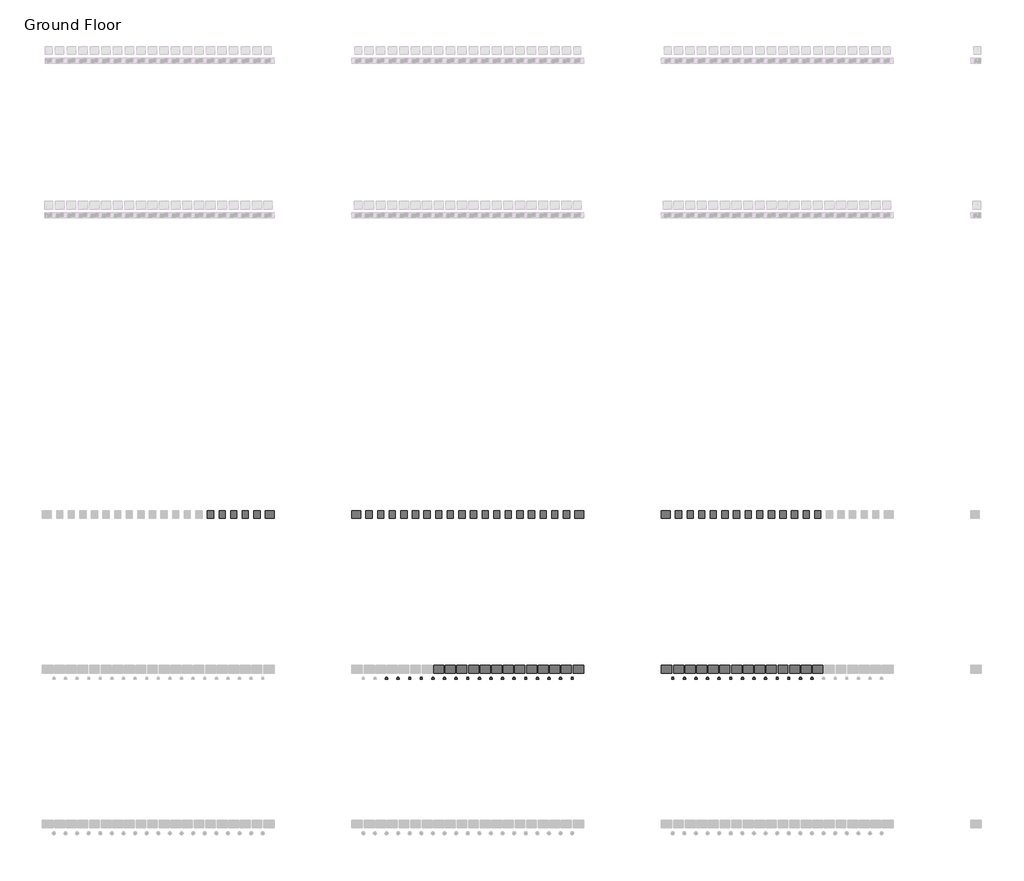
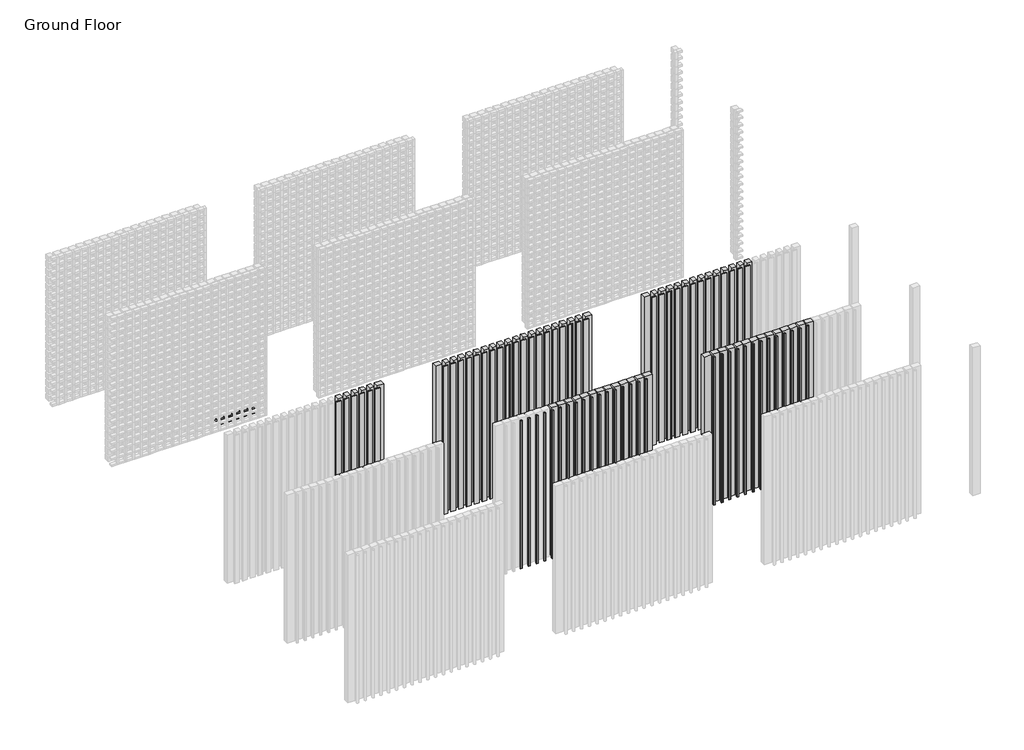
# One storey, part 61 of 350: 72 plates, 68 members.
"""IFC4 building model written with IfcOpenShell, lengths in millimetres."""

from ifc_helpers import new_model, si_unit, origin, place, context, project, spatial, transform, mapped, element, save
from components import rectangular_mullion_25c8ac94, rectangular_mullion_d7abbbe3, empty_system_panel_empty_de2abd15, empty_system_panel_empty_1239baa2, empty_system_panel_empty_e311c30d, empty_system_panel_empty_f62c9f60, empty_system_panel_empty_ba5a9e04, empty_system_panel_empty_0065accd, empty_system_panel_empty_fe50b430

model = new_model("IFC4")

# Units and contexts
model_context = context("Model", 3, world=origin())
ifc_project = project(units=[si_unit("LENGTHUNIT", "METRE", prefix="MILLI")], contexts=[model_context])

# Site, building, storey
site = spatial("IfcSite", under=ifc_project)
building = spatial("IfcBuilding", under=site)
storey = spatial("IfcBuildingStorey", under=building, Name="Ground Floor", Elevation=0.0)

# Members
placement = place(None, origin())
rectangular_mullion_shape = rectangular_mullion_25c8ac94(model_context)
element("IfcMember", 1, ObjectType="Rectangular Mullion : Batten_Aluminium_Modinex_Austratus_Linear_Fin_SpottedGum", at=placement, inside=storey, context=model_context, shape_type="MappedRepresentation", body=[
    mapped(rectangular_mullion_shape, transform((14066.4361642, 32968.2978302, 0.0), x_axis=(1.0, 0.0, 0.0), y_axis=(0.0, -1.0, 0.0), z_axis=(0.0, 0.0, -1.0))),
])
element("IfcMember", 2, ObjectType="Rectangular Mullion : Batten_Aluminium_Modinex_Austratus_Linear_Fin_SpottedGum", at=placement, inside=storey, context=model_context, shape_type="MappedRepresentation", body=[
    mapped(rectangular_mullion_shape, transform((14216.4361642, 32968.2978302, 0.0), x_axis=(1.0, 0.0, 0.0), y_axis=(0.0, -1.0, 0.0), z_axis=(0.0, 0.0, -1.0))),
])
element("IfcMember", 3, ObjectType="Rectangular Mullion : Batten_Aluminium_Modinex_Austratus_Linear_Fin_SpottedGum", at=placement, inside=storey, context=model_context, shape_type="MappedRepresentation", body=[
    mapped(rectangular_mullion_shape, transform((14366.4361642, 32968.2978302, 0.0), x_axis=(1.0, 0.0, 0.0), y_axis=(0.0, -1.0, 0.0), z_axis=(0.0, 0.0, -1.0))),
])
element("IfcMember", 4, ObjectType="Rectangular Mullion : Batten_Aluminium_Modinex_Austratus_Linear_Fin_SpottedGum", at=placement, inside=storey, context=model_context, shape_type="MappedRepresentation", body=[
    mapped(rectangular_mullion_shape, transform((14516.4361642, 32968.2978302, 0.0), x_axis=(1.0, 0.0, 0.0), y_axis=(0.0, -1.0, 0.0), z_axis=(0.0, 0.0, -1.0))),
])
element("IfcMember", 5, ObjectType="Rectangular Mullion : Batten_Aluminium_Modinex_Austratus_Linear_Fin_SpottedGum", at=placement, inside=storey, context=model_context, shape_type="MappedRepresentation", body=[
    mapped(rectangular_mullion_shape, transform((14666.4361642, 32968.2978302, 0.0), x_axis=(1.0, 0.0, 0.0), y_axis=(0.0, -1.0, 0.0), z_axis=(0.0, 0.0, -1.0))),
])
element("IfcMember", 6, ObjectType="Rectangular Mullion : Batten_Aluminium_Modinex_Austratus_Linear_Fin_SpottedGum", at=placement, inside=storey, context=model_context, shape_type="MappedRepresentation", body=[
    mapped(rectangular_mullion_shape, transform((14816.4361642, 32968.2978302, 0.0), x_axis=(1.0, 0.0, 0.0), y_axis=(0.0, -1.0, 0.0), z_axis=(0.0, 0.0, -1.0))),
])
element("IfcMember", 7, ObjectType="Rectangular Mullion : Batten_Aluminium_Modinex_Austratus_Linear_Fin_SpottedGum", at=placement, inside=storey, context=model_context, shape_type="MappedRepresentation", body=[
    mapped(rectangular_mullion_shape, transform((14966.4361642, 32968.2978302, 0.0), x_axis=(1.0, 0.0, 0.0), y_axis=(0.0, -1.0, 0.0), z_axis=(0.0, 0.0, -1.0))),
])
element("IfcMember", 8, ObjectType="Rectangular Mullion : Batten_Aluminium_Modinex_Austratus_Linear_Fin_SpottedGum", at=placement, inside=storey, context=model_context, shape_type="MappedRepresentation", body=[
    mapped(rectangular_mullion_shape, transform((15116.4361642, 32968.2978302, 0.0), x_axis=(1.0, 0.0, 0.0), y_axis=(0.0, -1.0, 0.0), z_axis=(0.0, 0.0, -1.0))),
])
element("IfcMember", 9, ObjectType="Rectangular Mullion : Batten_Aluminium_Modinex_Austratus_Linear_Fin_SpottedGum", at=placement, inside=storey, context=model_context, shape_type="MappedRepresentation", body=[
    mapped(rectangular_mullion_shape, transform((15266.4361642, 32968.2978302, 0.0), x_axis=(1.0, 0.0, 0.0), y_axis=(0.0, -1.0, 0.0), z_axis=(0.0, 0.0, -1.0))),
])
element("IfcMember", 10, ObjectType="Rectangular Mullion : Batten_Aluminium_Modinex_Austratus_Linear_Fin_SpottedGum", at=placement, inside=storey, context=model_context, shape_type="MappedRepresentation", body=[
    mapped(rectangular_mullion_shape, transform((15416.4361642, 32968.2978302, 0.0), x_axis=(1.0, 0.0, 0.0), y_axis=(0.0, -1.0, 0.0), z_axis=(0.0, 0.0, -1.0))),
])
element("IfcMember", 11, ObjectType="Rectangular Mullion : Batten_Aluminium_Modinex_Austratus_Linear_Fin_SpottedGum", at=placement, inside=storey, context=model_context, shape_type="MappedRepresentation", body=[
    mapped(rectangular_mullion_shape, transform((15566.4361642, 32968.2978302, 0.0), x_axis=(1.0, 0.0, 0.0), y_axis=(0.0, -1.0, 0.0), z_axis=(0.0, 0.0, -1.0))),
])
element("IfcMember", 12, ObjectType="Rectangular Mullion : Batten_Aluminium_Modinex_Austratus_Linear_Fin_SpottedGum", at=placement, inside=storey, context=model_context, shape_type="MappedRepresentation", body=[
    mapped(rectangular_mullion_shape, transform((15716.4361642, 32968.2978302, 0.0), x_axis=(1.0, 0.0, 0.0), y_axis=(0.0, -1.0, 0.0), z_axis=(0.0, 0.0, -1.0))),
])
element("IfcMember", 13, ObjectType="Rectangular Mullion : Batten_Aluminium_Modinex_Austratus_Linear_Fin_SpottedGum", at=placement, inside=storey, context=model_context, shape_type="MappedRepresentation", body=[
    mapped(rectangular_mullion_shape, transform((15866.4361642, 32968.2978302, 0.0), x_axis=(1.0, 0.0, 0.0), y_axis=(0.0, -1.0, 0.0), z_axis=(0.0, 0.0, -1.0))),
])
rectangular_mullion_2_shape = rectangular_mullion_d7abbbe3(model_context)
element("IfcMember", 14, ObjectType="Rectangular Mullion : Batten_Aluminium_Modinex_Austratus_Linear_Flat_Cedar", at=placement, inside=storey, context=model_context, shape_type="MappedRepresentation", body=[
    mapped(rectangular_mullion_2_shape, transform((8016.4361642, 34968.2978302, 0.0), x_axis=(1.0, 0.0, 0.0), y_axis=(0.0, -1.0, 0.0), z_axis=(0.0, 0.0, -1.0))),
])
element("IfcMember", 15, ObjectType="Rectangular Mullion : Batten_Aluminium_Modinex_Austratus_Linear_Flat_Cedar", at=placement, inside=storey, context=model_context, shape_type="MappedRepresentation", body=[
    mapped(rectangular_mullion_2_shape, transform((8166.4361642, 34968.2978302, 0.0), x_axis=(1.0, 0.0, 0.0), y_axis=(0.0, -1.0, 0.0), z_axis=(0.0, 0.0, -1.0))),
])
element("IfcMember", 16, ObjectType="Rectangular Mullion : Batten_Aluminium_Modinex_Austratus_Linear_Flat_Cedar", at=placement, inside=storey, context=model_context, shape_type="MappedRepresentation", body=[
    mapped(rectangular_mullion_2_shape, transform((8316.4361642, 34968.2978302, 0.0), x_axis=(1.0, 0.0, 0.0), y_axis=(0.0, -1.0, 0.0), z_axis=(0.0, 0.0, -1.0))),
])
element("IfcMember", 17, ObjectType="Rectangular Mullion : Batten_Aluminium_Modinex_Austratus_Linear_Flat_Cedar", at=placement, inside=storey, context=model_context, shape_type="MappedRepresentation", body=[
    mapped(rectangular_mullion_2_shape, transform((8466.4361642, 34968.2978302, 0.0), x_axis=(1.0, 0.0, 0.0), y_axis=(0.0, -1.0, 0.0), z_axis=(0.0, 0.0, -1.0))),
])
element("IfcMember", 18, ObjectType="Rectangular Mullion : Batten_Aluminium_Modinex_Austratus_Linear_Flat_Cedar", at=placement, inside=storey, context=model_context, shape_type="MappedRepresentation", body=[
    mapped(rectangular_mullion_2_shape, transform((8616.4361642, 34968.2978302, 0.0), x_axis=(1.0, 0.0, 0.0), y_axis=(0.0, -1.0, 0.0), z_axis=(0.0, 0.0, -1.0))),
])
element("IfcMember", 19, ObjectType="Rectangular Mullion : Batten_Aluminium_Modinex_Austratus_Linear_Flat_Cedar", at=placement, inside=storey, context=model_context, shape_type="MappedRepresentation", body=[
    mapped(rectangular_mullion_2_shape, transform((8766.4361642, 34968.2978302, 0.0), x_axis=(1.0, 0.0, 0.0), y_axis=(0.0, -1.0, 0.0), z_axis=(0.0, 0.0, -1.0))),
])
element("IfcMember", 20, ObjectType="Rectangular Mullion : Batten_Aluminium_Modinex_Austratus_Linear_Flat_EnglishOak", at=placement, inside=storey, context=model_context, shape_type="MappedRepresentation", body=[
    mapped(rectangular_mullion_2_shape, transform((10066.4361642, 34968.2978302, 0.0), x_axis=(1.0, 0.0, 0.0), y_axis=(0.0, -1.0, 0.0), z_axis=(0.0, 0.0, -1.0))),
])
element("IfcMember", 21, ObjectType="Rectangular Mullion : Batten_Aluminium_Modinex_Austratus_Linear_Flat_EnglishOak", at=placement, inside=storey, context=model_context, shape_type="MappedRepresentation", body=[
    mapped(rectangular_mullion_2_shape, transform((10216.4361642, 34968.2978302, 0.0), x_axis=(1.0, 0.0, 0.0), y_axis=(0.0, -1.0, 0.0), z_axis=(0.0, 0.0, -1.0))),
])
element("IfcMember", 22, ObjectType="Rectangular Mullion : Batten_Aluminium_Modinex_Austratus_Linear_Flat_EnglishOak", at=placement, inside=storey, context=model_context, shape_type="MappedRepresentation", body=[
    mapped(rectangular_mullion_2_shape, transform((10366.4361642, 34968.2978302, 0.0), x_axis=(1.0, 0.0, 0.0), y_axis=(0.0, -1.0, 0.0), z_axis=(0.0, 0.0, -1.0))),
])
element("IfcMember", 23, ObjectType="Rectangular Mullion : Batten_Aluminium_Modinex_Austratus_Linear_Flat_EnglishOak", at=placement, inside=storey, context=model_context, shape_type="MappedRepresentation", body=[
    mapped(rectangular_mullion_2_shape, transform((10516.4361642, 34968.2978302, 0.0), x_axis=(1.0, 0.0, 0.0), y_axis=(0.0, -1.0, 0.0), z_axis=(0.0, 0.0, -1.0))),
])
element("IfcMember", 24, ObjectType="Rectangular Mullion : Batten_Aluminium_Modinex_Austratus_Linear_Flat_EnglishOak", at=placement, inside=storey, context=model_context, shape_type="MappedRepresentation", body=[
    mapped(rectangular_mullion_2_shape, transform((10666.4361642, 34968.2978302, 0.0), x_axis=(1.0, 0.0, 0.0), y_axis=(0.0, -1.0, 0.0), z_axis=(0.0, 0.0, -1.0))),
])
element("IfcMember", 25, ObjectType="Rectangular Mullion : Batten_Aluminium_Modinex_Austratus_Linear_Flat_EnglishOak", at=placement, inside=storey, context=model_context, shape_type="MappedRepresentation", body=[
    mapped(rectangular_mullion_2_shape, transform((10816.4361642, 34968.2978302, 0.0), x_axis=(1.0, 0.0, 0.0), y_axis=(0.0, -1.0, 0.0), z_axis=(0.0, 0.0, -1.0))),
])
element("IfcMember", 26, ObjectType="Rectangular Mullion : Batten_Aluminium_Modinex_Austratus_Linear_Flat_EnglishOak", at=placement, inside=storey, context=model_context, shape_type="MappedRepresentation", body=[
    mapped(rectangular_mullion_2_shape, transform((10966.4361642, 34968.2978302, 0.0), x_axis=(1.0, 0.0, 0.0), y_axis=(0.0, -1.0, 0.0), z_axis=(0.0, 0.0, -1.0))),
])
element("IfcMember", 27, ObjectType="Rectangular Mullion : Batten_Aluminium_Modinex_Austratus_Linear_Flat_EnglishOak", at=placement, inside=storey, context=model_context, shape_type="MappedRepresentation", body=[
    mapped(rectangular_mullion_2_shape, transform((11116.4361642, 34968.2978302, 0.0), x_axis=(1.0, 0.0, 0.0), y_axis=(0.0, -1.0, 0.0), z_axis=(0.0, 0.0, -1.0))),
])
element("IfcMember", 28, ObjectType="Rectangular Mullion : Batten_Aluminium_Modinex_Austratus_Linear_Flat_EnglishOak", at=placement, inside=storey, context=model_context, shape_type="MappedRepresentation", body=[
    mapped(rectangular_mullion_2_shape, transform((11266.4361642, 34968.2978302, 0.0), x_axis=(1.0, 0.0, 0.0), y_axis=(0.0, -1.0, 0.0), z_axis=(0.0, 0.0, -1.0))),
])
element("IfcMember", 29, ObjectType="Rectangular Mullion : Batten_Aluminium_Modinex_Austratus_Linear_Flat_EnglishOak", at=placement, inside=storey, context=model_context, shape_type="MappedRepresentation", body=[
    mapped(rectangular_mullion_2_shape, transform((11416.4361642, 34968.2978302, 0.0), x_axis=(1.0, 0.0, 0.0), y_axis=(0.0, -1.0, 0.0), z_axis=(0.0, 0.0, -1.0))),
])
element("IfcMember", 30, ObjectType="Rectangular Mullion : Batten_Aluminium_Modinex_Austratus_Linear_Flat_EnglishOak", at=placement, inside=storey, context=model_context, shape_type="MappedRepresentation", body=[
    mapped(rectangular_mullion_2_shape, transform((11566.4361642, 34968.2978302, 0.0), x_axis=(1.0, 0.0, 0.0), y_axis=(0.0, -1.0, 0.0), z_axis=(0.0, 0.0, -1.0))),
])
element("IfcMember", 31, ObjectType="Rectangular Mullion : Batten_Aluminium_Modinex_Austratus_Linear_Flat_EnglishOak", at=placement, inside=storey, context=model_context, shape_type="MappedRepresentation", body=[
    mapped(rectangular_mullion_2_shape, transform((11716.4361642, 34968.2978302, 0.0), x_axis=(1.0, 0.0, 0.0), y_axis=(0.0, -1.0, 0.0), z_axis=(0.0, 0.0, -1.0))),
])
element("IfcMember", 32, ObjectType="Rectangular Mullion : Batten_Aluminium_Modinex_Austratus_Linear_Flat_EnglishOak", at=placement, inside=storey, context=model_context, shape_type="MappedRepresentation", body=[
    mapped(rectangular_mullion_2_shape, transform((11866.4361642, 34968.2978302, 0.0), x_axis=(1.0, 0.0, 0.0), y_axis=(0.0, -1.0, 0.0), z_axis=(0.0, 0.0, -1.0))),
])
element("IfcMember", 33, ObjectType="Rectangular Mullion : Batten_Aluminium_Modinex_Austratus_Linear_Flat_EnglishOak", at=placement, inside=storey, context=model_context, shape_type="MappedRepresentation", body=[
    mapped(rectangular_mullion_2_shape, transform((12016.4361642, 34968.2978302, 0.0), x_axis=(1.0, 0.0, 0.0), y_axis=(0.0, -1.0, 0.0), z_axis=(0.0, 0.0, -1.0))),
])
element("IfcMember", 34, ObjectType="Rectangular Mullion : Batten_Aluminium_Modinex_Austratus_Linear_Flat_EnglishOak", at=placement, inside=storey, context=model_context, shape_type="MappedRepresentation", body=[
    mapped(rectangular_mullion_2_shape, transform((12166.4361642, 34968.2978302, 0.0), x_axis=(1.0, 0.0, 0.0), y_axis=(0.0, -1.0, 0.0), z_axis=(0.0, 0.0, -1.0))),
])
element("IfcMember", 35, ObjectType="Rectangular Mullion : Batten_Aluminium_Modinex_Austratus_Linear_Flat_EnglishOak", at=placement, inside=storey, context=model_context, shape_type="MappedRepresentation", body=[
    mapped(rectangular_mullion_2_shape, transform((12316.4361642, 34968.2978302, 0.0), x_axis=(1.0, 0.0, 0.0), y_axis=(0.0, -1.0, 0.0), z_axis=(0.0, 0.0, -1.0))),
])
element("IfcMember", 36, ObjectType="Rectangular Mullion : Batten_Aluminium_Modinex_Austratus_Linear_Flat_EnglishOak", at=placement, inside=storey, context=model_context, shape_type="MappedRepresentation", body=[
    mapped(rectangular_mullion_2_shape, transform((12466.4361642, 34968.2978302, 0.0), x_axis=(1.0, 0.0, 0.0), y_axis=(0.0, -1.0, 0.0), z_axis=(0.0, 0.0, -1.0))),
])
element("IfcMember", 37, ObjectType="Rectangular Mullion : Batten_Aluminium_Modinex_Austratus_Linear_Flat_EnglishOak", at=placement, inside=storey, context=model_context, shape_type="MappedRepresentation", body=[
    mapped(rectangular_mullion_2_shape, transform((12616.4361642, 34968.2978302, 0.0), x_axis=(1.0, 0.0, 0.0), y_axis=(0.0, -1.0, 0.0), z_axis=(0.0, 0.0, -1.0))),
])
element("IfcMember", 38, ObjectType="Rectangular Mullion : Batten_Aluminium_Modinex_Austratus_Linear_Flat_EnglishOak", at=placement, inside=storey, context=model_context, shape_type="MappedRepresentation", body=[
    mapped(rectangular_mullion_2_shape, transform((12766.4361642, 34968.2978302, 0.0), x_axis=(1.0, 0.0, 0.0), y_axis=(0.0, -1.0, 0.0), z_axis=(0.0, 0.0, -1.0))),
])
element("IfcMember", 39, ObjectType="Rectangular Mullion : Batten_Aluminium_Modinex_Austratus_Linear_Flat_SpottedGum", at=placement, inside=storey, context=model_context, shape_type="MappedRepresentation", body=[
    mapped(rectangular_mullion_2_shape, transform((14066.4361642, 34968.2978302, 0.0), x_axis=(1.0, 0.0, 0.0), y_axis=(0.0, -1.0, 0.0), z_axis=(0.0, 0.0, -1.0))),
])
element("IfcMember", 40, ObjectType="Rectangular Mullion : Batten_Aluminium_Modinex_Austratus_Linear_Flat_SpottedGum", at=placement, inside=storey, context=model_context, shape_type="MappedRepresentation", body=[
    mapped(rectangular_mullion_2_shape, transform((14216.4361642, 34968.2978302, 0.0), x_axis=(1.0, 0.0, 0.0), y_axis=(0.0, -1.0, 0.0), z_axis=(0.0, 0.0, -1.0))),
])
element("IfcMember", 41, ObjectType="Rectangular Mullion : Batten_Aluminium_Modinex_Austratus_Linear_Flat_SpottedGum", at=placement, inside=storey, context=model_context, shape_type="MappedRepresentation", body=[
    mapped(rectangular_mullion_2_shape, transform((14366.4361642, 34968.2978302, 0.0), x_axis=(1.0, 0.0, 0.0), y_axis=(0.0, -1.0, 0.0), z_axis=(0.0, 0.0, -1.0))),
])
element("IfcMember", 42, ObjectType="Rectangular Mullion : Batten_Aluminium_Modinex_Austratus_Linear_Flat_SpottedGum", at=placement, inside=storey, context=model_context, shape_type="MappedRepresentation", body=[
    mapped(rectangular_mullion_2_shape, transform((14516.4361642, 34968.2978302, 0.0), x_axis=(1.0, 0.0, 0.0), y_axis=(0.0, -1.0, 0.0), z_axis=(0.0, 0.0, -1.0))),
])
element("IfcMember", 43, ObjectType="Rectangular Mullion : Batten_Aluminium_Modinex_Austratus_Linear_Flat_SpottedGum", at=placement, inside=storey, context=model_context, shape_type="MappedRepresentation", body=[
    mapped(rectangular_mullion_2_shape, transform((14666.4361642, 34968.2978302, 0.0), x_axis=(1.0, 0.0, 0.0), y_axis=(0.0, -1.0, 0.0), z_axis=(0.0, 0.0, -1.0))),
])
element("IfcMember", 44, ObjectType="Rectangular Mullion : Batten_Aluminium_Modinex_Austratus_Linear_Flat_SpottedGum", at=placement, inside=storey, context=model_context, shape_type="MappedRepresentation", body=[
    mapped(rectangular_mullion_2_shape, transform((14816.4361642, 34968.2978302, 0.0), x_axis=(1.0, 0.0, 0.0), y_axis=(0.0, -1.0, 0.0), z_axis=(0.0, 0.0, -1.0))),
])
element("IfcMember", 45, ObjectType="Rectangular Mullion : Batten_Aluminium_Modinex_Austratus_Linear_Flat_SpottedGum", at=placement, inside=storey, context=model_context, shape_type="MappedRepresentation", body=[
    mapped(rectangular_mullion_2_shape, transform((14966.4361642, 34968.2978302, 0.0), x_axis=(1.0, 0.0, 0.0), y_axis=(0.0, -1.0, 0.0), z_axis=(0.0, 0.0, -1.0))),
])
element("IfcMember", 46, ObjectType="Rectangular Mullion : Batten_Aluminium_Modinex_Austratus_Linear_Flat_SpottedGum", at=placement, inside=storey, context=model_context, shape_type="MappedRepresentation", body=[
    mapped(rectangular_mullion_2_shape, transform((15116.4361642, 34968.2978302, 0.0), x_axis=(1.0, 0.0, 0.0), y_axis=(0.0, -1.0, 0.0), z_axis=(0.0, 0.0, -1.0))),
])
element("IfcMember", 47, ObjectType="Rectangular Mullion : Batten_Aluminium_Modinex_Austratus_Linear_Flat_SpottedGum", at=placement, inside=storey, context=model_context, shape_type="MappedRepresentation", body=[
    mapped(rectangular_mullion_2_shape, transform((15266.4361642, 34968.2978302, 0.0), x_axis=(1.0, 0.0, 0.0), y_axis=(0.0, -1.0, 0.0), z_axis=(0.0, 0.0, -1.0))),
])
element("IfcMember", 48, ObjectType="Rectangular Mullion : Batten_Aluminium_Modinex_Austratus_Linear_Flat_SpottedGum", at=placement, inside=storey, context=model_context, shape_type="MappedRepresentation", body=[
    mapped(rectangular_mullion_2_shape, transform((15416.4361642, 34968.2978302, 0.0), x_axis=(1.0, 0.0, 0.0), y_axis=(0.0, -1.0, 0.0), z_axis=(0.0, 0.0, -1.0))),
])
element("IfcMember", 49, ObjectType="Rectangular Mullion : Batten_Aluminium_Modinex_Austratus_Linear_Flat_SpottedGum", at=placement, inside=storey, context=model_context, shape_type="MappedRepresentation", body=[
    mapped(rectangular_mullion_2_shape, transform((15566.4361642, 34968.2978302, 0.0), x_axis=(1.0, 0.0, 0.0), y_axis=(0.0, -1.0, 0.0), z_axis=(0.0, 0.0, -1.0))),
])
element("IfcMember", 50, ObjectType="Rectangular Mullion : Batten_Aluminium_Modinex_Austratus_Linear_Flat_SpottedGum", at=placement, inside=storey, context=model_context, shape_type="MappedRepresentation", body=[
    mapped(rectangular_mullion_2_shape, transform((15716.4361642, 34968.2978302, 0.0), x_axis=(1.0, 0.0, 0.0), y_axis=(0.0, -1.0, 0.0), z_axis=(0.0, 0.0, -1.0))),
])
element("IfcMember", 51, ObjectType="Rectangular Mullion : Batten_Aluminium_Modinex_Austratus_Linear_Flat_SpottedGum", at=placement, inside=storey, context=model_context, shape_type="MappedRepresentation", body=[
    mapped(rectangular_mullion_2_shape, transform((15866.4361642, 34968.2978302, 0.0), x_axis=(1.0, 0.0, 0.0), y_axis=(0.0, -1.0, 0.0), z_axis=(0.0, 0.0, -1.0))),
])
element("IfcMember", 52, ObjectType="Rectangular Mullion : Batten_Aluminium_Modinex_Austratus_Linear_Fin_EnglishOak", at=placement, inside=storey, context=model_context, shape_type="MappedRepresentation", body=[
    mapped(rectangular_mullion_shape, transform((10366.4361642, 32968.2978302, 0.0), x_axis=(1.0, 0.0, 0.0), y_axis=(0.0, -1.0, 0.0), z_axis=(0.0, 0.0, -1.0))),
])
element("IfcMember", 53, ObjectType="Rectangular Mullion : Batten_Aluminium_Modinex_Austratus_Linear_Fin_EnglishOak", at=placement, inside=storey, context=model_context, shape_type="MappedRepresentation", body=[
    mapped(rectangular_mullion_shape, transform((10516.4361642, 32968.2978302, 0.0), x_axis=(1.0, 0.0, 0.0), y_axis=(0.0, -1.0, 0.0), z_axis=(0.0, 0.0, -1.0))),
])
element("IfcMember", 54, ObjectType="Rectangular Mullion : Batten_Aluminium_Modinex_Austratus_Linear_Fin_EnglishOak", at=placement, inside=storey, context=model_context, shape_type="MappedRepresentation", body=[
    mapped(rectangular_mullion_shape, transform((10666.4361642, 32968.2978302, 0.0), x_axis=(1.0, 0.0, 0.0), y_axis=(0.0, -1.0, 0.0), z_axis=(0.0, 0.0, -1.0))),
])
element("IfcMember", 55, ObjectType="Rectangular Mullion : Batten_Aluminium_Modinex_Austratus_Linear_Fin_EnglishOak", at=placement, inside=storey, context=model_context, shape_type="MappedRepresentation", body=[
    mapped(rectangular_mullion_shape, transform((10816.4361642, 32968.2978302, 0.0), x_axis=(1.0, 0.0, 0.0), y_axis=(0.0, -1.0, 0.0), z_axis=(0.0, 0.0, -1.0))),
])
element("IfcMember", 56, ObjectType="Rectangular Mullion : Batten_Aluminium_Modinex_Austratus_Linear_Fin_EnglishOak", at=placement, inside=storey, context=model_context, shape_type="MappedRepresentation", body=[
    mapped(rectangular_mullion_shape, transform((10966.4361642, 32968.2978302, 0.0), x_axis=(1.0, 0.0, 0.0), y_axis=(0.0, -1.0, 0.0), z_axis=(0.0, 0.0, -1.0))),
])
element("IfcMember", 57, ObjectType="Rectangular Mullion : Batten_Aluminium_Modinex_Austratus_Linear_Fin_EnglishOak", at=placement, inside=storey, context=model_context, shape_type="MappedRepresentation", body=[
    mapped(rectangular_mullion_shape, transform((11116.4361642, 32968.2978302, 0.0), x_axis=(1.0, 0.0, 0.0), y_axis=(0.0, -1.0, 0.0), z_axis=(0.0, 0.0, -1.0))),
])
element("IfcMember", 58, ObjectType="Rectangular Mullion : Batten_Aluminium_Modinex_Austratus_Linear_Fin_EnglishOak", at=placement, inside=storey, context=model_context, shape_type="MappedRepresentation", body=[
    mapped(rectangular_mullion_shape, transform((11266.4361642, 32968.2978302, 0.0), x_axis=(1.0, 0.0, 0.0), y_axis=(0.0, -1.0, 0.0), z_axis=(0.0, 0.0, -1.0))),
])
element("IfcMember", 59, ObjectType="Rectangular Mullion : Batten_Aluminium_Modinex_Austratus_Linear_Fin_EnglishOak", at=placement, inside=storey, context=model_context, shape_type="MappedRepresentation", body=[
    mapped(rectangular_mullion_shape, transform((11416.4361642, 32968.2978302, 0.0), x_axis=(1.0, 0.0, 0.0), y_axis=(0.0, -1.0, 0.0), z_axis=(0.0, 0.0, -1.0))),
])
element("IfcMember", 60, ObjectType="Rectangular Mullion : Batten_Aluminium_Modinex_Austratus_Linear_Fin_EnglishOak", at=placement, inside=storey, context=model_context, shape_type="MappedRepresentation", body=[
    mapped(rectangular_mullion_shape, transform((11566.4361642, 32968.2978302, 0.0), x_axis=(1.0, 0.0, 0.0), y_axis=(0.0, -1.0, 0.0), z_axis=(0.0, 0.0, -1.0))),
])
element("IfcMember", 61, ObjectType="Rectangular Mullion : Batten_Aluminium_Modinex_Austratus_Linear_Fin_EnglishOak", at=placement, inside=storey, context=model_context, shape_type="MappedRepresentation", body=[
    mapped(rectangular_mullion_shape, transform((11716.4361642, 32968.2978302, 0.0), x_axis=(1.0, 0.0, 0.0), y_axis=(0.0, -1.0, 0.0), z_axis=(0.0, 0.0, -1.0))),
])
element("IfcMember", 62, ObjectType="Rectangular Mullion : Batten_Aluminium_Modinex_Austratus_Linear_Fin_EnglishOak", at=placement, inside=storey, context=model_context, shape_type="MappedRepresentation", body=[
    mapped(rectangular_mullion_shape, transform((11866.4361642, 32968.2978302, 0.0), x_axis=(1.0, 0.0, 0.0), y_axis=(0.0, -1.0, 0.0), z_axis=(0.0, 0.0, -1.0))),
])
element("IfcMember", 63, ObjectType="Rectangular Mullion : Batten_Aluminium_Modinex_Austratus_Linear_Fin_EnglishOak", at=placement, inside=storey, context=model_context, shape_type="MappedRepresentation", body=[
    mapped(rectangular_mullion_shape, transform((12016.4361642, 32968.2978302, 0.0), x_axis=(1.0, 0.0, 0.0), y_axis=(0.0, -1.0, 0.0), z_axis=(0.0, 0.0, -1.0))),
])
element("IfcMember", 64, ObjectType="Rectangular Mullion : Batten_Aluminium_Modinex_Austratus_Linear_Fin_EnglishOak", at=placement, inside=storey, context=model_context, shape_type="MappedRepresentation", body=[
    mapped(rectangular_mullion_shape, transform((12166.4361642, 32968.2978302, 0.0), x_axis=(1.0, 0.0, 0.0), y_axis=(0.0, -1.0, 0.0), z_axis=(0.0, 0.0, -1.0))),
])
element("IfcMember", 65, ObjectType="Rectangular Mullion : Batten_Aluminium_Modinex_Austratus_Linear_Fin_EnglishOak", at=placement, inside=storey, context=model_context, shape_type="MappedRepresentation", body=[
    mapped(rectangular_mullion_shape, transform((12316.4361642, 32968.2978302, 0.0), x_axis=(1.0, 0.0, 0.0), y_axis=(0.0, -1.0, 0.0), z_axis=(0.0, 0.0, -1.0))),
])
element("IfcMember", 66, ObjectType="Rectangular Mullion : Batten_Aluminium_Modinex_Austratus_Linear_Fin_EnglishOak", at=placement, inside=storey, context=model_context, shape_type="MappedRepresentation", body=[
    mapped(rectangular_mullion_shape, transform((12466.4361642, 32968.2978302, 0.0), x_axis=(1.0, 0.0, 0.0), y_axis=(0.0, -1.0, 0.0), z_axis=(0.0, 0.0, -1.0))),
])
element("IfcMember", 67, ObjectType="Rectangular Mullion : Batten_Aluminium_Modinex_Austratus_Linear_Fin_EnglishOak", at=placement, inside=storey, context=model_context, shape_type="MappedRepresentation", body=[
    mapped(rectangular_mullion_shape, transform((12616.4361642, 32968.2978302, 0.0), x_axis=(1.0, 0.0, 0.0), y_axis=(0.0, -1.0, 0.0), z_axis=(0.0, 0.0, -1.0))),
])
element("IfcMember", 68, ObjectType="Rectangular Mullion : Batten_Aluminium_Modinex_Austratus_Linear_Fin_EnglishOak", at=placement, inside=storey, context=model_context, shape_type="MappedRepresentation", body=[
    mapped(rectangular_mullion_shape, transform((12766.4361642, 32968.2978302, 0.0), x_axis=(1.0, 0.0, 0.0), y_axis=(0.0, -1.0, 0.0), z_axis=(0.0, 0.0, -1.0))),
])

# Plates
empty_system_panel_empty_shape = empty_system_panel_empty_de2abd15(model_context)
element("IfcPlate", 69, ObjectType="Empty System Panel : Empty", at=placement, inside=storey, context=model_context, shape_type="MappedRepresentation", body=[
    mapped(empty_system_panel_empty_shape, transform((13986.0300666, 32968.2978302, 0.0), x_axis=(1.0, 0.0, 0.0), y_axis=(0.0, 1.0, 0.0), z_axis=(0.0, 0.0, 1.0))),
])
empty_system_panel_empty_2_shape = empty_system_panel_empty_1239baa2(model_context)
element("IfcPlate", 70, ObjectType="Empty System Panel : Empty", at=placement, inside=storey, context=model_context, shape_type="MappedRepresentation", body=[
    mapped(empty_system_panel_empty_2_shape, transform((11041.4361642, 32968.2978302, 0.0), x_axis=(1.0, 0.0, 0.0), y_axis=(0.0, 1.0, 0.0), z_axis=(0.0, 0.0, 1.0))),
])
element("IfcPlate", 71, ObjectType="Empty System Panel : Empty", at=placement, inside=storey, context=model_context, shape_type="MappedRepresentation", body=[
    mapped(empty_system_panel_empty_2_shape, transform((11191.4361642, 32968.2978302, 0.0), x_axis=(1.0, 0.0, 0.0), y_axis=(0.0, 1.0, 0.0), z_axis=(0.0, 0.0, 1.0))),
])
element("IfcPlate", 72, ObjectType="Empty System Panel : Empty", at=placement, inside=storey, context=model_context, shape_type="MappedRepresentation", body=[
    mapped(empty_system_panel_empty_2_shape, transform((11341.4361642, 32968.2978302, 0.0), x_axis=(1.0, 0.0, 0.0), y_axis=(0.0, 1.0, 0.0), z_axis=(0.0, 0.0, 1.0))),
])
element("IfcPlate", 73, ObjectType="Empty System Panel : Empty", at=placement, inside=storey, context=model_context, shape_type="MappedRepresentation", body=[
    mapped(empty_system_panel_empty_2_shape, transform((11491.4361642, 32968.2978302, 0.0), x_axis=(1.0, 0.0, 0.0), y_axis=(0.0, 1.0, 0.0), z_axis=(0.0, 0.0, 1.0))),
])
element("IfcPlate", 74, ObjectType="Empty System Panel : Empty", at=placement, inside=storey, context=model_context, shape_type="MappedRepresentation", body=[
    mapped(empty_system_panel_empty_2_shape, transform((11641.4361642, 32968.2978302, 0.0), x_axis=(1.0, 0.0, 0.0), y_axis=(0.0, 1.0, 0.0), z_axis=(0.0, 0.0, 1.0))),
])
element("IfcPlate", 75, ObjectType="Empty System Panel : Empty", at=placement, inside=storey, context=model_context, shape_type="MappedRepresentation", body=[
    mapped(empty_system_panel_empty_2_shape, transform((11791.4361642, 32968.2978302, 0.0), x_axis=(1.0, 0.0, 0.0), y_axis=(0.0, 1.0, 0.0), z_axis=(0.0, 0.0, 1.0))),
])
element("IfcPlate", 76, ObjectType="Empty System Panel : Empty", at=placement, inside=storey, context=model_context, shape_type="MappedRepresentation", body=[
    mapped(empty_system_panel_empty_2_shape, transform((11941.4361642, 32968.2978302, 0.0), x_axis=(1.0, 0.0, 0.0), y_axis=(0.0, 1.0, 0.0), z_axis=(0.0, 0.0, 1.0))),
])
element("IfcPlate", 77, ObjectType="Empty System Panel : Empty", at=placement, inside=storey, context=model_context, shape_type="MappedRepresentation", body=[
    mapped(empty_system_panel_empty_2_shape, transform((12091.4361642, 32968.2978302, 0.0), x_axis=(1.0, 0.0, 0.0), y_axis=(0.0, 1.0, 0.0), z_axis=(0.0, 0.0, 1.0))),
])
element("IfcPlate", 78, ObjectType="Empty System Panel : Empty", at=placement, inside=storey, context=model_context, shape_type="MappedRepresentation", body=[
    mapped(empty_system_panel_empty_2_shape, transform((12241.4361642, 32968.2978302, 0.0), x_axis=(1.0, 0.0, 0.0), y_axis=(0.0, 1.0, 0.0), z_axis=(0.0, 0.0, 1.0))),
])
element("IfcPlate", 79, ObjectType="Empty System Panel : Empty", at=placement, inside=storey, context=model_context, shape_type="MappedRepresentation", body=[
    mapped(empty_system_panel_empty_2_shape, transform((12391.4361642, 32968.2978302, 0.0), x_axis=(1.0, 0.0, 0.0), y_axis=(0.0, 1.0, 0.0), z_axis=(0.0, 0.0, 1.0))),
])
element("IfcPlate", 80, ObjectType="Empty System Panel : Empty", at=placement, inside=storey, context=model_context, shape_type="MappedRepresentation", body=[
    mapped(empty_system_panel_empty_2_shape, transform((12541.4361642, 32968.2978302, 0.0), x_axis=(1.0, 0.0, 0.0), y_axis=(0.0, 1.0, 0.0), z_axis=(0.0, 0.0, 1.0))),
])
element("IfcPlate", 81, ObjectType="Empty System Panel : Empty", at=placement, inside=storey, context=model_context, shape_type="MappedRepresentation", body=[
    mapped(empty_system_panel_empty_2_shape, transform((12691.4361642, 32968.2978302, 0.0), x_axis=(1.0, 0.0, 0.0), y_axis=(0.0, 1.0, 0.0), z_axis=(0.0, 0.0, 1.0))),
])
element("IfcPlate", 82, ObjectType="Empty System Panel : Empty", at=placement, inside=storey, context=model_context, shape_type="MappedRepresentation", body=[
    mapped(empty_system_panel_empty_2_shape, transform((14141.4361642, 32968.2978302, 0.0), x_axis=(1.0, 0.0, 0.0), y_axis=(0.0, 1.0, 0.0), z_axis=(0.0, 0.0, 1.0))),
])
element("IfcPlate", 83, ObjectType="Empty System Panel : Empty", at=placement, inside=storey, context=model_context, shape_type="MappedRepresentation", body=[
    mapped(empty_system_panel_empty_2_shape, transform((14291.4361642, 32968.2978302, 0.0), x_axis=(1.0, 0.0, 0.0), y_axis=(0.0, 1.0, 0.0), z_axis=(0.0, 0.0, 1.0))),
])
element("IfcPlate", 84, ObjectType="Empty System Panel : Empty", at=placement, inside=storey, context=model_context, shape_type="MappedRepresentation", body=[
    mapped(empty_system_panel_empty_2_shape, transform((14441.4361642, 32968.2978302, 0.0), x_axis=(1.0, 0.0, 0.0), y_axis=(0.0, 1.0, 0.0), z_axis=(0.0, 0.0, 1.0))),
])
element("IfcPlate", 85, ObjectType="Empty System Panel : Empty", at=placement, inside=storey, context=model_context, shape_type="MappedRepresentation", body=[
    mapped(empty_system_panel_empty_2_shape, transform((14591.4361642, 32968.2978302, 0.0), x_axis=(1.0, 0.0, 0.0), y_axis=(0.0, 1.0, 0.0), z_axis=(0.0, 0.0, 1.0))),
])
element("IfcPlate", 86, ObjectType="Empty System Panel : Empty", at=placement, inside=storey, context=model_context, shape_type="MappedRepresentation", body=[
    mapped(empty_system_panel_empty_2_shape, transform((14741.4361642, 32968.2978302, 0.0), x_axis=(1.0, 0.0, 0.0), y_axis=(0.0, 1.0, 0.0), z_axis=(0.0, 0.0, 1.0))),
])
element("IfcPlate", 87, ObjectType="Empty System Panel : Empty", at=placement, inside=storey, context=model_context, shape_type="MappedRepresentation", body=[
    mapped(empty_system_panel_empty_2_shape, transform((14891.4361642, 32968.2978302, 0.0), x_axis=(1.0, 0.0, 0.0), y_axis=(0.0, 1.0, 0.0), z_axis=(0.0, 0.0, 1.0))),
])
element("IfcPlate", 88, ObjectType="Empty System Panel : Empty", at=placement, inside=storey, context=model_context, shape_type="MappedRepresentation", body=[
    mapped(empty_system_panel_empty_2_shape, transform((15041.4361642, 32968.2978302, 0.0), x_axis=(1.0, 0.0, 0.0), y_axis=(0.0, 1.0, 0.0), z_axis=(0.0, 0.0, 1.0))),
])
element("IfcPlate", 89, ObjectType="Empty System Panel : Empty", at=placement, inside=storey, context=model_context, shape_type="MappedRepresentation", body=[
    mapped(empty_system_panel_empty_2_shape, transform((15191.4361642, 32968.2978302, 0.0), x_axis=(1.0, 0.0, 0.0), y_axis=(0.0, 1.0, 0.0), z_axis=(0.0, 0.0, 1.0))),
])
element("IfcPlate", 90, ObjectType="Empty System Panel : Empty", at=placement, inside=storey, context=model_context, shape_type="MappedRepresentation", body=[
    mapped(empty_system_panel_empty_2_shape, transform((15341.4361642, 32968.2978302, 0.0), x_axis=(1.0, 0.0, 0.0), y_axis=(0.0, 1.0, 0.0), z_axis=(0.0, 0.0, 1.0))),
])
element("IfcPlate", 91, ObjectType="Empty System Panel : Empty", at=placement, inside=storey, context=model_context, shape_type="MappedRepresentation", body=[
    mapped(empty_system_panel_empty_2_shape, transform((15491.4361642, 32968.2978302, 0.0), x_axis=(1.0, 0.0, 0.0), y_axis=(0.0, 1.0, 0.0), z_axis=(0.0, 0.0, 1.0))),
])
element("IfcPlate", 92, ObjectType="Empty System Panel : Empty", at=placement, inside=storey, context=model_context, shape_type="MappedRepresentation", body=[
    mapped(empty_system_panel_empty_2_shape, transform((15641.4361642, 32968.2978302, 0.0), x_axis=(1.0, 0.0, 0.0), y_axis=(0.0, 1.0, 0.0), z_axis=(0.0, 0.0, 1.0))),
])
element("IfcPlate", 93, ObjectType="Empty System Panel : Empty", at=placement, inside=storey, context=model_context, shape_type="MappedRepresentation", body=[
    mapped(empty_system_panel_empty_2_shape, transform((15791.4361642, 32968.2978302, 0.0), x_axis=(1.0, 0.0, 0.0), y_axis=(0.0, 1.0, 0.0), z_axis=(0.0, 0.0, 1.0))),
])
element("IfcPlate", 94, ObjectType="Empty System Panel : Empty", at=placement, inside=storey, context=model_context, shape_type="MappedRepresentation", body=[
    mapped(empty_system_panel_empty_2_shape, transform((15941.4361642, 32968.2978302, 0.0), x_axis=(1.0, 0.0, 0.0), y_axis=(0.0, 1.0, 0.0), z_axis=(0.0, 0.0, 1.0))),
])
empty_system_panel_empty_3_shape = empty_system_panel_empty_e311c30d(model_context)
element("IfcPlate", 95, ObjectType="Empty System Panel : Empty", at=placement, inside=storey, context=model_context, shape_type="MappedRepresentation", body=[
    mapped(empty_system_panel_empty_3_shape, transform((12846.8422616, 32968.2978302, 0.0), x_axis=(1.0, 0.0, 0.0), y_axis=(0.0, 1.0, 0.0), z_axis=(0.0, 0.0, 1.0))),
])
empty_system_panel_empty_4_shape = empty_system_panel_empty_f62c9f60(model_context)
element("IfcPlate", 96, ObjectType="Empty System Panel : Empty", at=placement, inside=storey, context=model_context, shape_type="MappedRepresentation", body=[
    mapped(empty_system_panel_empty_4_shape, transform((9974.2310401, 34968.2978302, 0.0), x_axis=(1.0, 0.0, 0.0), y_axis=(0.0, 1.0, 0.0), z_axis=(0.0, 0.0, 1.0))),
])
element("IfcPlate", 97, ObjectType="Empty System Panel : Empty", at=placement, inside=storey, context=model_context, shape_type="MappedRepresentation", body=[
    mapped(empty_system_panel_empty_4_shape, transform((13974.2310401, 34968.2978302, 0.0), x_axis=(1.0, 0.0, 0.0), y_axis=(0.0, 1.0, 0.0), z_axis=(0.0, 0.0, 1.0))),
])
empty_system_panel_empty_5_shape = empty_system_panel_empty_ba5a9e04(model_context)
element("IfcPlate", 98, ObjectType="Empty System Panel : Empty", at=placement, inside=storey, context=model_context, shape_type="MappedRepresentation", body=[
    mapped(empty_system_panel_empty_5_shape, transform((8091.4361642, 34968.2978302, 0.0), x_axis=(1.0, 0.0, 0.0), y_axis=(0.0, 1.0, 0.0), z_axis=(0.0, 0.0, 1.0))),
])
element("IfcPlate", 99, ObjectType="Empty System Panel : Empty", at=placement, inside=storey, context=model_context, shape_type="MappedRepresentation", body=[
    mapped(empty_system_panel_empty_5_shape, transform((8241.4361642, 34968.2978302, 0.0), x_axis=(1.0, 0.0, 0.0), y_axis=(0.0, 1.0, 0.0), z_axis=(0.0, 0.0, 1.0))),
])
element("IfcPlate", 100, ObjectType="Empty System Panel : Empty", at=placement, inside=storey, context=model_context, shape_type="MappedRepresentation", body=[
    mapped(empty_system_panel_empty_5_shape, transform((8391.4361642, 34968.2978302, 0.0), x_axis=(1.0, 0.0, 0.0), y_axis=(0.0, 1.0, 0.0), z_axis=(0.0, 0.0, 1.0))),
])
element("IfcPlate", 101, ObjectType="Empty System Panel : Empty", at=placement, inside=storey, context=model_context, shape_type="MappedRepresentation", body=[
    mapped(empty_system_panel_empty_5_shape, transform((8541.4361642, 34968.2978302, 0.0), x_axis=(1.0, 0.0, 0.0), y_axis=(0.0, 1.0, 0.0), z_axis=(0.0, 0.0, 1.0))),
])
element("IfcPlate", 102, ObjectType="Empty System Panel : Empty", at=placement, inside=storey, context=model_context, shape_type="MappedRepresentation", body=[
    mapped(empty_system_panel_empty_5_shape, transform((8691.4361642, 34968.2978302, 0.0), x_axis=(1.0, 0.0, 0.0), y_axis=(0.0, 1.0, 0.0), z_axis=(0.0, 0.0, 1.0))),
])
element("IfcPlate", 103, ObjectType="Empty System Panel : Empty", at=placement, inside=storey, context=model_context, shape_type="MappedRepresentation", body=[
    mapped(empty_system_panel_empty_5_shape, transform((10141.4361642, 34968.2978302, 0.0), x_axis=(1.0, 0.0, 0.0), y_axis=(0.0, 1.0, 0.0), z_axis=(0.0, 0.0, 1.0))),
])
element("IfcPlate", 104, ObjectType="Empty System Panel : Empty", at=placement, inside=storey, context=model_context, shape_type="MappedRepresentation", body=[
    mapped(empty_system_panel_empty_5_shape, transform((10291.4361642, 34968.2978302, 0.0), x_axis=(1.0, 0.0, 0.0), y_axis=(0.0, 1.0, 0.0), z_axis=(0.0, 0.0, 1.0))),
])
element("IfcPlate", 105, ObjectType="Empty System Panel : Empty", at=placement, inside=storey, context=model_context, shape_type="MappedRepresentation", body=[
    mapped(empty_system_panel_empty_5_shape, transform((10441.4361642, 34968.2978302, 0.0), x_axis=(1.0, 0.0, 0.0), y_axis=(0.0, 1.0, 0.0), z_axis=(0.0, 0.0, 1.0))),
])
element("IfcPlate", 106, ObjectType="Empty System Panel : Empty", at=placement, inside=storey, context=model_context, shape_type="MappedRepresentation", body=[
    mapped(empty_system_panel_empty_5_shape, transform((10591.4361642, 34968.2978302, 0.0), x_axis=(1.0, 0.0, 0.0), y_axis=(0.0, 1.0, 0.0), z_axis=(0.0, 0.0, 1.0))),
])
element("IfcPlate", 107, ObjectType="Empty System Panel : Empty", at=placement, inside=storey, context=model_context, shape_type="MappedRepresentation", body=[
    mapped(empty_system_panel_empty_5_shape, transform((10741.4361642, 34968.2978302, 0.0), x_axis=(1.0, 0.0, 0.0), y_axis=(0.0, 1.0, 0.0), z_axis=(0.0, 0.0, 1.0))),
])
element("IfcPlate", 108, ObjectType="Empty System Panel : Empty", at=placement, inside=storey, context=model_context, shape_type="MappedRepresentation", body=[
    mapped(empty_system_panel_empty_5_shape, transform((10891.4361642, 34968.2978302, 0.0), x_axis=(1.0, 0.0, 0.0), y_axis=(0.0, 1.0, 0.0), z_axis=(0.0, 0.0, 1.0))),
])
element("IfcPlate", 109, ObjectType="Empty System Panel : Empty", at=placement, inside=storey, context=model_context, shape_type="MappedRepresentation", body=[
    mapped(empty_system_panel_empty_5_shape, transform((11041.4361642, 34968.2978302, 0.0), x_axis=(1.0, 0.0, 0.0), y_axis=(0.0, 1.0, 0.0), z_axis=(0.0, 0.0, 1.0))),
])
element("IfcPlate", 110, ObjectType="Empty System Panel : Empty", at=placement, inside=storey, context=model_context, shape_type="MappedRepresentation", body=[
    mapped(empty_system_panel_empty_5_shape, transform((11191.4361642, 34968.2978302, 0.0), x_axis=(1.0, 0.0, 0.0), y_axis=(0.0, 1.0, 0.0), z_axis=(0.0, 0.0, 1.0))),
])
element("IfcPlate", 111, ObjectType="Empty System Panel : Empty", at=placement, inside=storey, context=model_context, shape_type="MappedRepresentation", body=[
    mapped(empty_system_panel_empty_5_shape, transform((11341.4361642, 34968.2978302, 0.0), x_axis=(1.0, 0.0, 0.0), y_axis=(0.0, 1.0, 0.0), z_axis=(0.0, 0.0, 1.0))),
])
element("IfcPlate", 112, ObjectType="Empty System Panel : Empty", at=placement, inside=storey, context=model_context, shape_type="MappedRepresentation", body=[
    mapped(empty_system_panel_empty_5_shape, transform((11491.4361642, 34968.2978302, 0.0), x_axis=(1.0, 0.0, 0.0), y_axis=(0.0, 1.0, 0.0), z_axis=(0.0, 0.0, 1.0))),
])
element("IfcPlate", 113, ObjectType="Empty System Panel : Empty", at=placement, inside=storey, context=model_context, shape_type="MappedRepresentation", body=[
    mapped(empty_system_panel_empty_5_shape, transform((11641.4361642, 34968.2978302, 0.0), x_axis=(1.0, 0.0, 0.0), y_axis=(0.0, 1.0, 0.0), z_axis=(0.0, 0.0, 1.0))),
])
element("IfcPlate", 114, ObjectType="Empty System Panel : Empty", at=placement, inside=storey, context=model_context, shape_type="MappedRepresentation", body=[
    mapped(empty_system_panel_empty_5_shape, transform((11791.4361642, 34968.2978302, 0.0), x_axis=(1.0, 0.0, 0.0), y_axis=(0.0, 1.0, 0.0), z_axis=(0.0, 0.0, 1.0))),
])
element("IfcPlate", 115, ObjectType="Empty System Panel : Empty", at=placement, inside=storey, context=model_context, shape_type="MappedRepresentation", body=[
    mapped(empty_system_panel_empty_5_shape, transform((11941.4361642, 34968.2978302, 0.0), x_axis=(1.0, 0.0, 0.0), y_axis=(0.0, 1.0, 0.0), z_axis=(0.0, 0.0, 1.0))),
])
element("IfcPlate", 116, ObjectType="Empty System Panel : Empty", at=placement, inside=storey, context=model_context, shape_type="MappedRepresentation", body=[
    mapped(empty_system_panel_empty_5_shape, transform((12091.4361642, 34968.2978302, 0.0), x_axis=(1.0, 0.0, 0.0), y_axis=(0.0, 1.0, 0.0), z_axis=(0.0, 0.0, 1.0))),
])
element("IfcPlate", 117, ObjectType="Empty System Panel : Empty", at=placement, inside=storey, context=model_context, shape_type="MappedRepresentation", body=[
    mapped(empty_system_panel_empty_5_shape, transform((12241.4361642, 34968.2978302, 0.0), x_axis=(1.0, 0.0, 0.0), y_axis=(0.0, 1.0, 0.0), z_axis=(0.0, 0.0, 1.0))),
])
element("IfcPlate", 118, ObjectType="Empty System Panel : Empty", at=placement, inside=storey, context=model_context, shape_type="MappedRepresentation", body=[
    mapped(empty_system_panel_empty_5_shape, transform((12391.4361642, 34968.2978302, 0.0), x_axis=(1.0, 0.0, 0.0), y_axis=(0.0, 1.0, 0.0), z_axis=(0.0, 0.0, 1.0))),
])
element("IfcPlate", 119, ObjectType="Empty System Panel : Empty", at=placement, inside=storey, context=model_context, shape_type="MappedRepresentation", body=[
    mapped(empty_system_panel_empty_5_shape, transform((12541.4361642, 34968.2978302, 0.0), x_axis=(1.0, 0.0, 0.0), y_axis=(0.0, 1.0, 0.0), z_axis=(0.0, 0.0, 1.0))),
])
element("IfcPlate", 120, ObjectType="Empty System Panel : Empty", at=placement, inside=storey, context=model_context, shape_type="MappedRepresentation", body=[
    mapped(empty_system_panel_empty_5_shape, transform((12691.4361642, 34968.2978302, 0.0), x_axis=(1.0, 0.0, 0.0), y_axis=(0.0, 1.0, 0.0), z_axis=(0.0, 0.0, 1.0))),
])
element("IfcPlate", 121, ObjectType="Empty System Panel : Empty", at=placement, inside=storey, context=model_context, shape_type="MappedRepresentation", body=[
    mapped(empty_system_panel_empty_5_shape, transform((14141.4361642, 34968.2978302, 0.0), x_axis=(1.0, 0.0, 0.0), y_axis=(0.0, 1.0, 0.0), z_axis=(0.0, 0.0, 1.0))),
])
element("IfcPlate", 122, ObjectType="Empty System Panel : Empty", at=placement, inside=storey, context=model_context, shape_type="MappedRepresentation", body=[
    mapped(empty_system_panel_empty_5_shape, transform((14291.4361642, 34968.2978302, 0.0), x_axis=(1.0, 0.0, 0.0), y_axis=(0.0, 1.0, 0.0), z_axis=(0.0, 0.0, 1.0))),
])
element("IfcPlate", 123, ObjectType="Empty System Panel : Empty", at=placement, inside=storey, context=model_context, shape_type="MappedRepresentation", body=[
    mapped(empty_system_panel_empty_5_shape, transform((14441.4361642, 34968.2978302, 0.0), x_axis=(1.0, 0.0, 0.0), y_axis=(0.0, 1.0, 0.0), z_axis=(0.0, 0.0, 1.0))),
])
element("IfcPlate", 124, ObjectType="Empty System Panel : Empty", at=placement, inside=storey, context=model_context, shape_type="MappedRepresentation", body=[
    mapped(empty_system_panel_empty_5_shape, transform((14591.4361642, 34968.2978302, 0.0), x_axis=(1.0, 0.0, 0.0), y_axis=(0.0, 1.0, 0.0), z_axis=(0.0, 0.0, 1.0))),
])
element("IfcPlate", 125, ObjectType="Empty System Panel : Empty", at=placement, inside=storey, context=model_context, shape_type="MappedRepresentation", body=[
    mapped(empty_system_panel_empty_5_shape, transform((14741.4361642, 34968.2978302, 0.0), x_axis=(1.0, 0.0, 0.0), y_axis=(0.0, 1.0, 0.0), z_axis=(0.0, 0.0, 1.0))),
])
element("IfcPlate", 126, ObjectType="Empty System Panel : Empty", at=placement, inside=storey, context=model_context, shape_type="MappedRepresentation", body=[
    mapped(empty_system_panel_empty_5_shape, transform((14891.4361642, 34968.2978302, 0.0), x_axis=(1.0, 0.0, 0.0), y_axis=(0.0, 1.0, 0.0), z_axis=(0.0, 0.0, 1.0))),
])
element("IfcPlate", 127, ObjectType="Empty System Panel : Empty", at=placement, inside=storey, context=model_context, shape_type="MappedRepresentation", body=[
    mapped(empty_system_panel_empty_5_shape, transform((15041.4361642, 34968.2978302, 0.0), x_axis=(1.0, 0.0, 0.0), y_axis=(0.0, 1.0, 0.0), z_axis=(0.0, 0.0, 1.0))),
])
element("IfcPlate", 128, ObjectType="Empty System Panel : Empty", at=placement, inside=storey, context=model_context, shape_type="MappedRepresentation", body=[
    mapped(empty_system_panel_empty_5_shape, transform((15191.4361642, 34968.2978302, 0.0), x_axis=(1.0, 0.0, 0.0), y_axis=(0.0, 1.0, 0.0), z_axis=(0.0, 0.0, 1.0))),
])
element("IfcPlate", 129, ObjectType="Empty System Panel : Empty", at=placement, inside=storey, context=model_context, shape_type="MappedRepresentation", body=[
    mapped(empty_system_panel_empty_5_shape, transform((15341.4361642, 34968.2978302, 0.0), x_axis=(1.0, 0.0, 0.0), y_axis=(0.0, 1.0, 0.0), z_axis=(0.0, 0.0, 1.0))),
])
element("IfcPlate", 130, ObjectType="Empty System Panel : Empty", at=placement, inside=storey, context=model_context, shape_type="MappedRepresentation", body=[
    mapped(empty_system_panel_empty_5_shape, transform((15491.4361642, 34968.2978302, 0.0), x_axis=(1.0, 0.0, 0.0), y_axis=(0.0, 1.0, 0.0), z_axis=(0.0, 0.0, 1.0))),
])
element("IfcPlate", 131, ObjectType="Empty System Panel : Empty", at=placement, inside=storey, context=model_context, shape_type="MappedRepresentation", body=[
    mapped(empty_system_panel_empty_5_shape, transform((15641.4361642, 34968.2978302, 0.0), x_axis=(1.0, 0.0, 0.0), y_axis=(0.0, 1.0, 0.0), z_axis=(0.0, 0.0, 1.0))),
])
element("IfcPlate", 132, ObjectType="Empty System Panel : Empty", at=placement, inside=storey, context=model_context, shape_type="MappedRepresentation", body=[
    mapped(empty_system_panel_empty_5_shape, transform((15791.4361642, 34968.2978302, 0.0), x_axis=(1.0, 0.0, 0.0), y_axis=(0.0, 1.0, 0.0), z_axis=(0.0, 0.0, 1.0))),
])
element("IfcPlate", 133, ObjectType="Empty System Panel : Empty", at=placement, inside=storey, context=model_context, shape_type="MappedRepresentation", body=[
    mapped(empty_system_panel_empty_5_shape, transform((15941.4361642, 34968.2978302, 0.0), x_axis=(1.0, 0.0, 0.0), y_axis=(0.0, 1.0, 0.0), z_axis=(0.0, 0.0, 1.0))),
])
empty_system_panel_empty_6_shape = empty_system_panel_empty_0065accd(model_context)
element("IfcPlate", 134, ObjectType="Empty System Panel : Empty", at=placement, inside=storey, context=model_context, shape_type="MappedRepresentation", body=[
    mapped(empty_system_panel_empty_6_shape, transform((8858.641288, 34968.2978302, 0.0), x_axis=(1.0, 0.0, 0.0), y_axis=(0.0, 1.0, 0.0), z_axis=(0.0, 0.0, 1.0))),
])
element("IfcPlate", 135, ObjectType="Empty System Panel : Empty", at=placement, inside=storey, context=model_context, shape_type="MappedRepresentation", body=[
    mapped(empty_system_panel_empty_6_shape, transform((12858.641288, 34968.2978302, 0.0), x_axis=(1.0, 0.0, 0.0), y_axis=(0.0, 1.0, 0.0), z_axis=(0.0, 0.0, 1.0))),
])
empty_system_panel_empty_7_shape = empty_system_panel_empty_fe50b430(model_context)
element("IfcPlate", 136, ObjectType="Empty System Panel : Empty", at=placement, inside=storey, context=model_context, shape_type="MappedRepresentation", body=[
    mapped(empty_system_panel_empty_7_shape, transform((8091.4361642, 38968.2978302, 30.0), x_axis=(1.0, 0.0, 0.0), y_axis=(0.0, 1.0, 0.0), z_axis=(0.0, 0.0, 1.0))),
])
element("IfcPlate", 137, ObjectType="Empty System Panel : Empty", at=placement, inside=storey, context=model_context, shape_type="MappedRepresentation", body=[
    mapped(empty_system_panel_empty_7_shape, transform((8241.4361642, 38968.2978302, 30.0), x_axis=(1.0, 0.0, 0.0), y_axis=(0.0, 1.0, 0.0), z_axis=(0.0, 0.0, 1.0))),
])
element("IfcPlate", 138, ObjectType="Empty System Panel : Empty", at=placement, inside=storey, context=model_context, shape_type="MappedRepresentation", body=[
    mapped(empty_system_panel_empty_7_shape, transform((8391.4361642, 38968.2978302, 30.0), x_axis=(1.0, 0.0, 0.0), y_axis=(0.0, 1.0, 0.0), z_axis=(0.0, 0.0, 1.0))),
])
element("IfcPlate", 139, ObjectType="Empty System Panel : Empty", at=placement, inside=storey, context=model_context, shape_type="MappedRepresentation", body=[
    mapped(empty_system_panel_empty_7_shape, transform((8541.4361642, 38968.2978302, 30.0), x_axis=(1.0, 0.0, 0.0), y_axis=(0.0, 1.0, 0.0), z_axis=(0.0, 0.0, 1.0))),
])
element("IfcPlate", 140, ObjectType="Empty System Panel : Empty", at=placement, inside=storey, context=model_context, shape_type="MappedRepresentation", body=[
    mapped(empty_system_panel_empty_7_shape, transform((8691.4361642, 38968.2978302, 30.0), x_axis=(1.0, 0.0, 0.0), y_axis=(0.0, 1.0, 0.0), z_axis=(0.0, 0.0, 1.0))),
])

save(model, "model.ifc")
